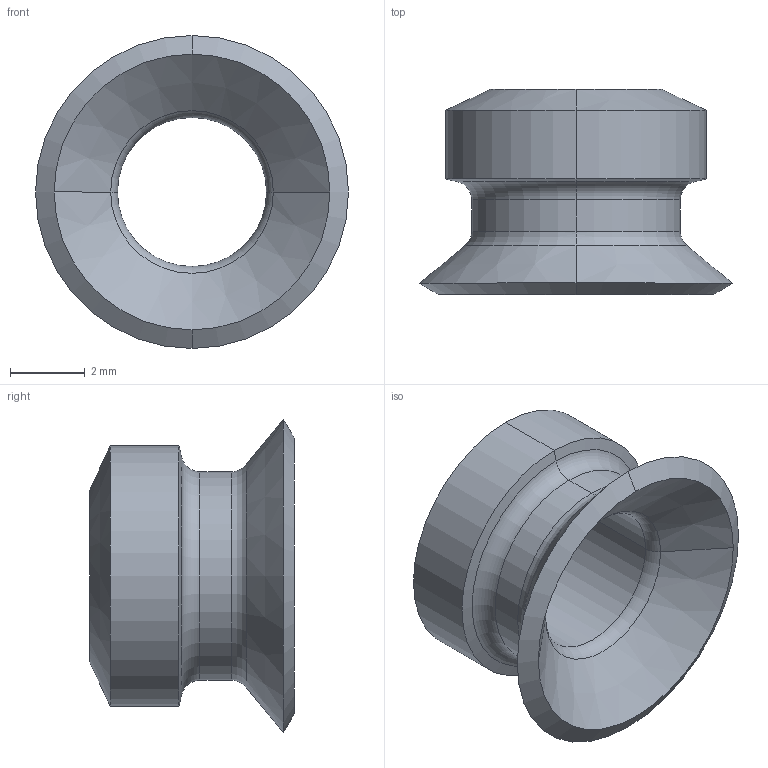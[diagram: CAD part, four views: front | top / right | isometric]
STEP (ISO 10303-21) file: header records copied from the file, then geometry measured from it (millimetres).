
FILE_DESCRIPTION (( 'STEP AP203' ), '1' );
FILE_NAME ('PFG_08--A.STEP', '2018-07-25T07:03:50', ( '' ), ( '' ), 'SwSTEP 2.0', 'SolidWorks 2016', '' );
FILE_SCHEMA (( 'CONFIG_CONTROL_DESIGN' ));
Length unit declared in the file: millimetre
Products named in the file (1): PFG_08--A
Bounding box: 8.4 x 5.5 x 8.4 mm (x, y, z)
Volume: 99.5 mm3; surface area: 251.4 mm2
Topology: 1 solids, 1 shells, 23 faces, 48 edges, 26 vertices
Faces by surface type: cone 10, cylinder 6, torus 6, plane 1
Entity records: 691 total; most frequent: DIRECTION 128, CARTESIAN_POINT 98, ORIENTED_EDGE 96, AXIS2_PLACEMENT_3D 56, EDGE_CURVE 48, CIRCLE 32, VERTEX_POINT 26, EDGE_LOOP 24
